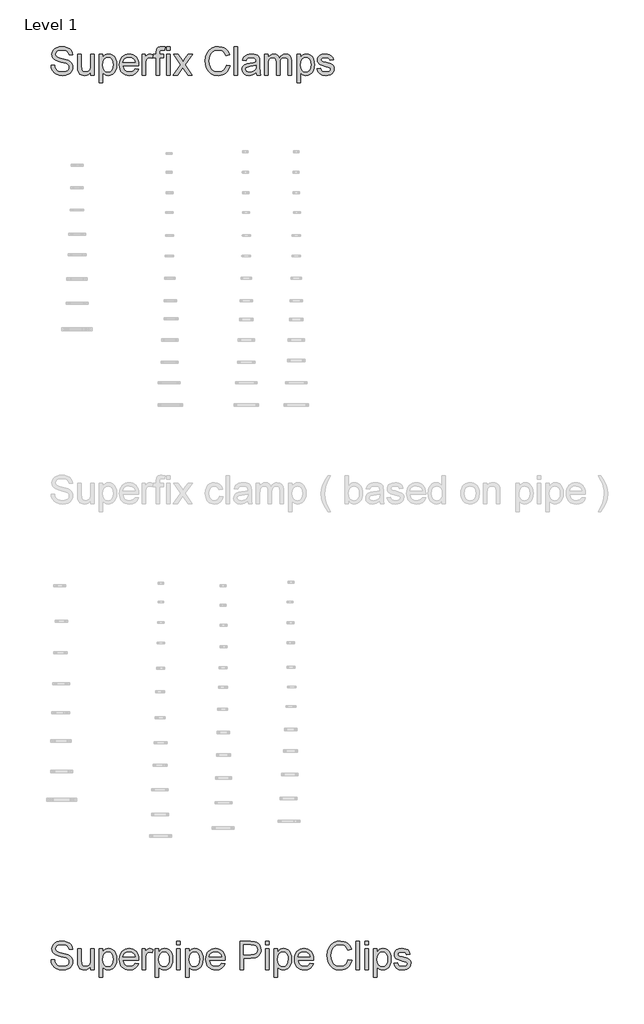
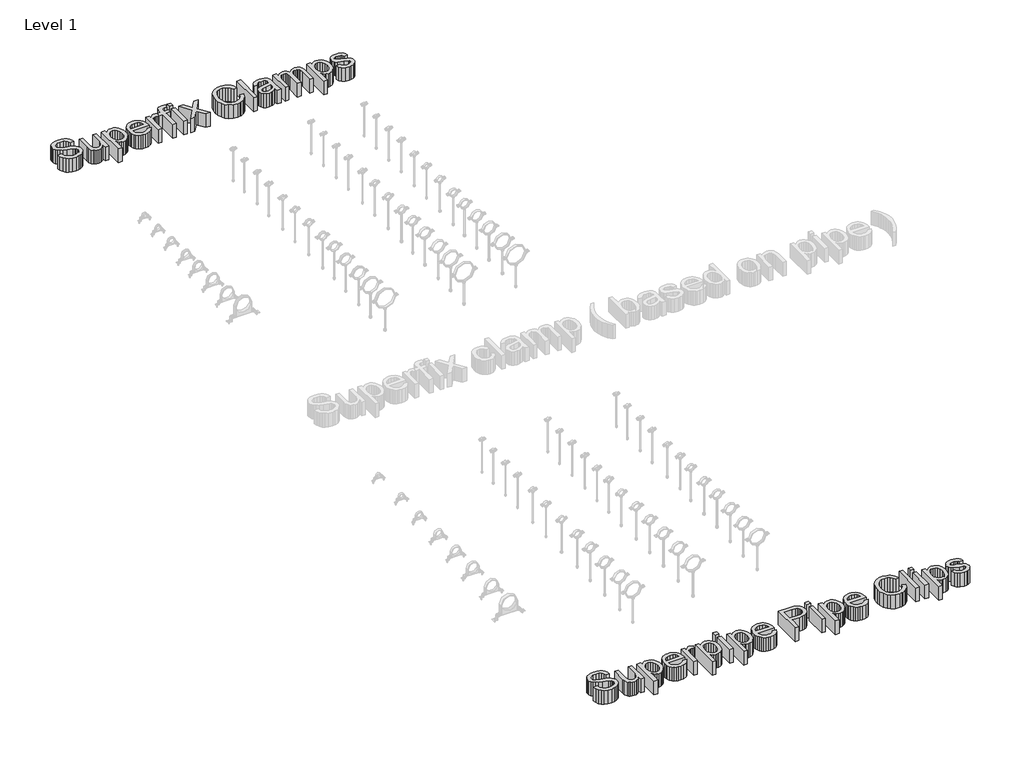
# One storey, part 20 of 32: 2 proxies.
"""IFC4 building model written with IfcOpenShell, lengths in millimetres."""

from ifc_helpers import new_model, si_unit, origin, origin_with_axes, place, context, project, spatial, polyline, outline, extrude, element, save

model = new_model("IFC4")

# Units and contexts
model_context = context("Model", 3, world=origin())
ifc_project = project(units=[si_unit("LENGTHUNIT", "METRE", prefix="MILLI")], contexts=[model_context])

# Site, building, storey
site = spatial("IfcSite", under=ifc_project)
building = spatial("IfcBuilding", under=site)
storey = spatial("IfcBuildingStorey", under=building, Name="Level 1", Elevation=0.0)

# Proxies
placement = place(None, origin())
element("IfcBuildingElementProxy", 1, Name="300mm Arial 2", ObjectType="300mm Arial 2", at=placement, inside=storey, context=model_context, shape_type="SweptSolid", body=[
    extrude(outline(polyline([(-49767.313903, 29546.1412722), (-49729.6427866, 29546.1412722), (-49725.3201732, 29525.2363779), (-49717.5026808, 29508.4333677), (-49705.3073927, 29495.0976454), (-49687.851392, 29484.5946144), (-49666.5142363, 29477.7796005), (-49642.675483, 29475.5079292), (-49621.6878152, 29477.2277775), (-49603.3121095, 29482.3873225), (-49588.4220857, 29490.5543028), (-49577.8914636, 29501.296457), (-49571.6282727, 29513.6297009), (-49569.5405423, 29526.5699501), (-49571.1040408, 29539.1791055), (-49575.7945363, 29550.0776096), (-49585.3226799, 29559.375827), (-49601.3991231, 29567.1841224), (-49656.2503286, 29581.5683084), (-49692.2567789, 29591.087255), (-49715.2953888, 29600.1463491), (-49734.0481735, 29612.8198839), (-49747.3379106, 29628.1789572), (-49755.2565706, 29645.8924752), (-49757.8961239, 29665.6293443), (-49754.6311712, 29687.6930669), (-49744.836313, 29708.2668675), (-49728.7690669, 29725.7044741), (-49706.6869501, 29738.3596147), (-49680.1810524, 29746.0575455), (-49650.8424633, 29748.6235224), (-49619.0574589, 29745.9379838), (-49591.2455801, 29737.8813681), (-49568.4001082, 29724.6192222), (-49551.5143246, 29706.3170929), (-49540.8273526, 29684.1154145), (-49536.5783156, 29659.1546211), (-49574.2494319, 29659.1546211), (-49581.1656134, 29681.6322111), (-49595.5865876, 29697.855807), (-49618.1193598, 29707.6782563), (-49649.3709353, 29710.9524061), (-49681.3582748, 29707.7150445), (-49703.3024358, 29698.0029598), (-49715.9943646, 29683.7107443), (-49720.2250076, 29666.7329902), (-49717.2267693, 29652.2568337), (-49708.2320545, 29640.6133686), (-49686.9684752, 29630.2023081), (-49646.7221849, 29619.5705185), (-49605.1883077, 29609.4721577), (-49580.0619674, 29600.6613839), (-49558.5868559, 29586.9945678), (-49543.6048617, 29570.1271783), (-49534.803285, 29550.2431565), (-49531.869426, 29527.5264433), (-49535.2447433, 29504.3038923), (-49545.3706953, 29482.4608989), (-49561.8334145, 29463.6621289), (-49584.219034, 29449.5722485), (-49611.138799, 29440.7706718), (-49641.203955, 29437.8368128), (-49678.1117162, 29441.000598), (-49708.4895719, 29450.4919535), (-49732.6870102, 29466.3476675), (-49751.0535188, 29488.6045282), (-49762.8441367, 29515.7174312), (-49767.313903, 29546.1412722)])), origin_with_axes(), (0.0, 0.0, 1.0), 150.0),
    extrude(outline(polyline([(-49338.804955, 29442.5457024), (-49338.804955, 29480.5847007), (-49352.4349829, 29461.8824998), (-49368.309091, 29448.5237848), (-49386.4272792, 29440.5085558), (-49406.7895477, 29437.8368128), (-49425.1376622, 29439.713011), (-49442.2165838, 29445.3416056), (-49456.5455875, 29453.8028914), (-49466.6439483, 29464.1771637), (-49477.8643491, 29491.9154661), (-49480.0716411, 29526.9378321), (-49480.0716411, 29663.8635107), (-49442.4005248, 29663.8635107), (-49442.4005248, 29544.6697442), (-49440.1196564, 29506.262864), (-49434.6290177, 29493.4513735), (-49425.2204356, 29483.7116976), (-49412.5193098, 29477.5588713), (-49397.1510394, 29475.5079292), (-49380.8998523, 29477.6048565), (-49365.6971288, 29483.8956386), (-49353.1615498, 29493.8008614), (-49344.9117961, 29506.7411105), (-49340.3316653, 29524.4638257), (-49338.804955, 29548.7164462), (-49338.804955, 29663.8635107), (-49301.1338387, 29663.8635107), (-49301.1338387, 29442.5457024), (-49338.804955, 29442.5457024)])), origin_with_axes(), (0.0, 0.0, 1.0), 150.0),
    extrude(outline(polyline([(-49249.3360537, 29357.7856907), (-49249.3360537, 29663.8635107), (-49211.6649374, 29663.8635107), (-49211.6649374, 29626.9281584), (-49199.3776788, 29645.1475142), (-49185.6188922, 29658.1613398), (-49169.5792372, 29665.9696351), (-49150.4493734, 29668.5724002), (-49124.9735453, 29664.9303685), (-49102.6982905, 29654.0042732), (-49084.5617081, 29636.456302), (-49071.5018973, 29612.9486426), (-49063.6108285, 29585.191946), (-49060.9804722, 29554.8968637), (-49063.9511193, 29522.679598), (-49072.8630607, 29493.8652407), (-49087.4311877, 29469.9161228), (-49107.3703918, 29452.2945753), (-49130.5929428, 29441.4512535), (-49155.0111102, 29437.8368128), (-49172.3291551, 29440.255637), (-49187.789396, 29447.5121093), (-49201.0239507, 29458.4657957), (-49211.6649374, 29471.976262), (-49211.6649374, 29357.7856907), (-49249.3360537, 29357.7856907)]), holes=[polyline([(-49211.6649374, 29551.438773), (-49207.5906443, 29517.6672058), (-49195.3677651, 29494.0491817), (-49177.3323502, 29480.1432423), (-49155.8204506, 29475.5079292), (-49133.959063, 29480.3087892), (-49115.4637957, 29494.7113693), (-49102.8546403, 29519.1939161), (-49098.6515885, 29554.2346761), (-49102.7534728, 29587.8223023), (-49115.0591255, 29611.7714202), (-49133.0669492, 29626.118818), (-49154.2753462, 29630.9012839), (-49175.5665167, 29625.8153153), (-49194.2641191, 29610.5574096), (-49207.3147328, 29585.6058133), (-49211.6649374, 29551.438773)])]), origin_with_axes(), (0.0, 0.0, 1.0), 150.0),
    extrude(outline(polyline([(-48863.64857, 29508.4701559), (-48826.7132177, 29503.7612664), (-48840.0213489, 29475.9309934), (-48861.257337, 29455.1272666), (-48889.9429356, 29442.1594263), (-48925.599898, 29437.8368128), (-48948.9742003, 29439.7015147), (-48969.8009197, 29445.2956203), (-48988.0800563, 29454.6191296), (-49003.8116102, 29467.6720427), (-49016.4621523, 29484.091076), (-49025.4982538, 29503.512946), (-49030.9199147, 29525.9376529), (-49032.727135, 29551.3651966), (-49030.9015206, 29577.6549636), (-49025.4246774, 29600.8269308), (-49016.2966054, 29620.8810981), (-49003.5173046, 29637.8174654), (-48987.8271375, 29651.2727494), (-48969.9664666, 29660.8836665), (-48949.935292, 29666.6502168), (-48927.7336136, 29668.5724002), (-48906.2470058, 29666.6548153), (-48886.8159386, 29660.9020606), (-48869.4404122, 29651.3141361), (-48854.1204263, 29637.8910418), (-48841.6147378, 29620.9914627), (-48832.6821031, 29600.9740836), (-48827.3225222, 29577.8389046), (-48825.5359953, 29551.5859258), (-48825.7567245, 29541.4323827), (-48995.0560187, 29541.4323827), (-48988.5353103, 29513.2342278), (-48973.3877692, 29492.5040773), (-48951.5263816, 29479.7569662), (-48924.864134, 29475.5079292), (-48904.8145653, 29477.4760978), (-48887.9287817, 29483.3806039), (-48874.2067833, 29493.5893292), (-48863.64857, 29508.4701559)]), holes=[polyline([(-48995.0560187, 29579.103499), (-48863.2071116, 29579.103499), (-48868.3022772, 29599.0059149), (-48878.2902734, 29613.2429481), (-48900.2528285, 29626.4867), (-48927.8807664, 29630.9012839), (-48953.2738211, 29627.3788138), (-48974.270686, 29616.8114035), (-48988.8664041, 29600.3394872), (-48995.0560187, 29579.103499)])]), origin_with_axes(), (0.0, 0.0, 1.0), 150.0),
    extrude(outline(polyline([(-48787.864879, 29442.5457024), (-48787.864879, 29663.8635107), (-48754.9026522, 29663.8635107), (-48754.9026522, 29631.1220131), (-48742.7257582, 29650.1047241), (-48731.5053573, 29661.2883367), (-48720.2481683, 29666.7513843), (-48707.9609096, 29668.5724002), (-48689.1989279, 29665.6661325), (-48670.1426405, 29656.9473292), (-48682.7242048, 29623.175762), (-48695.9679566, 29628.9699034), (-48709.2117084, 29630.9012839), (-48720.4597004, 29629.0434798), (-48730.5120759, 29623.4700676), (-48738.633071, 29614.6041115), (-48744.0869216, 29602.8686759), (-48748.6670524, 29581.8258258), (-48750.1937627, 29558.8699893), (-48750.1937627, 29442.5457024), (-48787.864879, 29442.5457024)])), origin_with_axes(), (0.0, 0.0, 1.0), 150.0),
    extrude(outline(polyline([(-48637.1804138, 29442.5457024), (-48637.1804138, 29626.1923944), (-48670.1426405, 29626.1923944), (-48670.1426405, 29663.8635107), (-48637.1804138, 29663.8635107), (-48637.1804138, 29686.1571596), (-48633.2072882, 29717.574282), (-48625.6289191, 29730.1006639), (-48613.9302717, 29740.0150837), (-48597.5595229, 29746.4714127), (-48575.9648498, 29748.6235224), (-48541.6046714, 29744.503244), (-48547.1229014, 29709.1865725), (-48568.8279391, 29710.9524061), (-48583.1477457, 29709.3889076), (-48592.5563278, 29704.6984122), (-48597.771055, 29695.7404856), (-48599.5092975, 29681.3746937), (-48599.5092975, 29663.8635107), (-48557.1292916, 29663.8635107), (-48557.1292916, 29626.1923944), (-48599.5092975, 29626.1923944), (-48599.5092975, 29442.5457024), (-48637.1804138, 29442.5457024)])), origin_with_axes(), (0.0, 0.0, 1.0), 150.0),
    extrude(outline(polyline([(-48524.1670649, 29442.5457024), (-48524.1670649, 29663.8635107), (-48486.4959485, 29663.8635107), (-48486.4959485, 29442.5457024), (-48524.1670649, 29442.5457024)])), origin_with_axes(), (0.0, 0.0, 1.0), 150.0),
    extrude(outline(polyline([(-48524.1670649, 29706.2435165), (-48524.1670649, 29743.9146328), (-48486.4959485, 29743.9146328), (-48486.4959485, 29706.2435165), (-48524.1670649, 29706.2435165)])), origin_with_axes(), (0.0, 0.0, 1.0), 150.0),
    extrude(outline(polyline([(-48453.5337218, 29442.5457024), (-48373.0411412, 29553.7932177), (-48448.8248322, 29663.8635107), (-48403.5017704, 29663.8635107), (-48366.9343001, 29610.8885034), (-48349.8645755, 29585.8725277), (-48335.0757193, 29606.3267666), (-48293.4314775, 29663.8635107), (-48248.1084157, 29663.8635107), (-48327.7180794, 29553.7932177), (-48251.0514716, 29442.5457024), (-48296.3745334, 29442.5457024), (-48342.5069356, 29509.4266491), (-48350.9682215, 29521.6403314), (-48408.21066, 29442.5457024), (-48453.5337218, 29442.5457024)])), origin_with_axes(), (0.0, 0.0, 1.0), 150.0),
    extrude(outline(polyline([(-47883.7580876, 29549.6729394), (-47846.0869713, 29539.9608547), (-47853.5411803, 29516.5336694), (-47863.4693956, 29496.0633356), (-47875.8716174, 29478.5498534), (-47890.7478456, 29463.9932227), (-47907.7623878, 29452.5497934), (-47926.5795519, 29444.3759153), (-47947.1993377, 29439.4715885), (-47969.6217453, 29437.8368128), (-48013.3169293, 29442.7848257), (-48048.0173985, 29457.6288642), (-48074.6152667, 29481.8538936), (-48094.0026479, 29514.944879), (-48105.8392511, 29553.8484), (-48109.7847855, 29595.511036), (-48105.3242163, 29639.4545403), (-48091.9425087, 29677.4015681), (-48070.3386386, 29708.1473059), (-48041.2115816, 29730.48694), (-48006.6674622, 29744.0893768), (-47968.8124049, 29748.6235224), (-47927.5084539, 29742.7558046), (-47909.5397177, 29735.4211573), (-47893.3598077, 29725.1526511), (-47879.2354384, 29712.221599), (-47867.4333241, 29696.8993139), (-47850.7958609, 29659.0810447), (-47888.4669772, 29650.1047241), (-47901.526788, 29677.5763121), (-47919.3690648, 29696.4210673), (-47942.2145367, 29707.3195714), (-47970.2839329, 29710.9524061), (-48002.6391544, 29706.9240982), (-48029.2186285, 29694.8391747), (-48049.3877589, 29675.9668283), (-48062.5119491, 29651.576252), (-48069.7132392, 29624.0034965), (-48072.1136692, 29595.5846124), (-48069.2717808, 29560.7829756), (-48060.7461155, 29530.6902284), (-48046.2147767, 29506.456002), (-48025.3558676, 29489.2299276), (-48000.349089, 29478.9384288), (-47973.3741417, 29475.5079292), (-47941.9294281, 29480.1800305), (-47915.727033, 29494.1963345), (-47895.9441787, 29517.4096884), (-47883.7580876, 29549.6729394)])), origin_with_axes(), (0.0, 0.0, 1.0), 150.0),
    extrude(outline(polyline([(-47798.998076, 29442.5457024), (-47798.998076, 29743.9146328), (-47761.3269597, 29743.9146328), (-47761.3269597, 29442.5457024), (-47798.998076, 29442.5457024)])), origin_with_axes(), (0.0, 0.0, 1.0), 150.0),
    extrude(outline(polyline([(-47563.553599, 29470.7990396), (-47581.5522257, 29455.3663899), (-47600.0842812, 29445.2680292), (-47619.5728299, 29439.6946169), (-47640.440936, 29437.8368128), (-47671.9224378, 29442.3065791), (-47695.1449887, 29455.7158778), (-47709.4647954, 29476.0781462), (-47714.2380643, 29501.4068216), (-47712.4354425, 29517.0234123), (-47707.0275772, 29531.2052632), (-47698.6858529, 29543.3453691), (-47688.0816544, 29552.8367245), (-47661.7045154, 29565.1975596), (-47629.1101706, 29570.8629423), (-47590.5929257, 29576.8226306), (-47563.7743282, 29583.8123885), (-47563.553599, 29592.200098), (-47566.1471671, 29609.0123052), (-47573.9278713, 29620.0119769), (-47591.3286897, 29628.1789572), (-47615.5721132, 29630.9012839), (-47638.0129149, 29629.0894651), (-47653.6846879, 29623.6540086), (-47664.3716598, 29613.6016331), (-47671.8580584, 29597.9390572), (-47709.5291747, 29602.6479467), (-47702.9900723, 29623.2493384), (-47693.2320023, 29639.4361462), (-47679.344457, 29651.8153753), (-47660.4169284, 29660.9940311), (-47637.2679538, 29666.6778079), (-47610.7160708, 29668.5724002), (-47585.2494397, 29666.8985371), (-47565.0619152, 29661.8769479), (-47549.8407977, 29654.32617), (-47539.2733874, 29645.0647407), (-47532.2652354, 29633.6144136), (-47527.7218927, 29619.4969421), (-47525.8824827, 29586.5347153), (-47525.8824827, 29539.6665491), (-47523.9694964, 29474.2203422), (-47516.4647037, 29442.5457024), (-47554.13582, 29442.5457024), (-47563.553599, 29470.7990396)]), holes=[polyline([(-47563.553599, 29546.1412722), (-47624.3277046, 29534.5897776), (-47656.7381084, 29528.4829365), (-47671.4166, 29518.5501226), (-47676.566948, 29504.055572), (-47673.7618478, 29492.8535652), (-47665.3465471, 29483.6749094), (-47651.504987, 29477.5496742), (-47632.4211085, 29475.5079292), (-47612.1875988, 29477.7612064), (-47594.3085338, 29484.521038), (-47579.8139832, 29494.4814431), (-47569.7340166, 29506.3364404), (-47565.2642503, 29518.5501226), (-47563.7743282, 29535.4726944), (-47563.553599, 29546.1412722)])]), origin_with_axes(), (0.0, 0.0, 1.0), 150.0),
    extrude(outline(polyline([(-47474.0846978, 29442.5457024), (-47474.0846978, 29663.8635107), (-47436.4135815, 29663.8635107), (-47436.4135815, 29627.4431932), (-47425.0828161, 29644.1726269), (-47410.5146891, 29657.278423), (-47393.2058412, 29665.7489059), (-47373.6529131, 29668.5724002), (-47352.7020335, 29665.6937236), (-47335.9082204, 29657.0576938), (-47323.3634444, 29643.2345278), (-47315.1596759, 29624.7944428), (-47301.4284804, 29643.9472992), (-47285.7659045, 29657.6279109), (-47268.1719481, 29665.8362779), (-47248.6466112, 29668.5724002), (-47220.3288946, 29664.0198605), (-47199.387212, 29650.3622415), (-47186.4469628, 29627.231661), (-47182.1335464, 29594.2602372), (-47182.1335464, 29442.5457024), (-47219.8046628, 29442.5457024), (-47219.8046628, 29578.0734294), (-47223.2995417, 29609.52734), (-47228.2107663, 29618.200158), (-47235.9546823, 29625.015172), (-47245.9150874, 29629.4297559), (-47257.4757791, 29630.9012839), (-47277.8840327, 29627.1304935), (-47294.521496, 29615.8181221), (-47305.585547, 29596.1916177), (-47309.273564, 29567.4784279), (-47309.273564, 29442.5457024), (-47346.9446803, 29442.5457024), (-47346.9446803, 29582.2672842), (-47349.1243811, 29603.5676517), (-47355.6634836, 29618.7611781), (-47367.168993, 29627.8662575), (-47384.2479146, 29630.9012839), (-47398.7608593, 29628.8779329), (-47412.1333698, 29622.80788), (-47423.1698297, 29612.838278), (-47430.6746224, 29599.1162795), (-47434.9788417, 29580.0783863), (-47436.4135815, 29554.1610997), (-47436.4135815, 29442.5457024), (-47474.0846978, 29442.5457024)])), origin_with_axes(), (0.0, 0.0, 1.0), 150.0),
    extrude(outline(polyline([(-47125.626872, 29357.7856907), (-47125.626872, 29663.8635107), (-47087.9557557, 29663.8635107), (-47087.9557557, 29626.9281584), (-47075.668497, 29645.1475142), (-47061.9097104, 29658.1613398), (-47045.8700554, 29665.9696351), (-47026.7401917, 29668.5724002), (-47001.2643635, 29664.9303685), (-46978.9891087, 29654.0042732), (-46960.8525263, 29636.456302), (-46947.7927155, 29612.9486426), (-46939.9016467, 29585.191946), (-46937.2712905, 29554.8968637), (-46940.2419376, 29522.679598), (-46949.1538789, 29493.8652407), (-46963.7220059, 29469.9161228), (-46983.66121, 29452.2945753), (-47006.883761, 29441.4512535), (-47031.3019284, 29437.8368128), (-47048.6199733, 29440.255637), (-47064.0802142, 29447.5121093), (-47077.314769, 29458.4657957), (-47087.9557557, 29471.976262), (-47087.9557557, 29357.7856907), (-47125.626872, 29357.7856907)]), holes=[polyline([(-47087.9557557, 29551.438773), (-47083.8814626, 29517.6672058), (-47071.6585833, 29494.0491817), (-47053.6231685, 29480.1432423), (-47032.1112688, 29475.5079292), (-47010.2498813, 29480.3087892), (-46991.7546139, 29494.7113693), (-46979.1454586, 29519.1939161), (-46974.9424068, 29554.2346761), (-46979.044291, 29587.8223023), (-46991.3499437, 29611.7714202), (-47009.3577674, 29626.118818), (-47030.5661644, 29630.9012839), (-47051.8573349, 29625.8153153), (-47070.5549373, 29610.5574096), (-47083.6055511, 29585.6058133), (-47087.9557557, 29551.438773)])]), origin_with_axes(), (0.0, 0.0, 1.0), 150.0),
    extrude(outline(polyline([(-46909.0179532, 29508.4701559), (-46871.3468369, 29513.1790455), (-46865.4055427, 29497.0658141), (-46853.9092303, 29485.2200138), (-46836.7843235, 29477.9359503), (-46813.9572457, 29475.5079292), (-46791.4060794, 29477.7336152), (-46775.5503654, 29484.4106734), (-46766.1693745, 29494.0859699), (-46763.0423775, 29505.3063708), (-46766.1877686, 29514.9080908), (-46775.6239418, 29522.2289425), (-46814.3987041, 29532.9710968), (-46871.1261077, 29551.4019848), (-46885.4827026, 29560.663414), (-46895.884566, 29572.9230815), (-46902.2029393, 29587.399238), (-46904.3090637, 29603.3101343), (-46902.6168065, 29617.9058524), (-46897.540035, 29631.3795305), (-46889.5386016, 29643.1977396), (-46879.0723588, 29652.8270508), (-46855.1232409, 29663.9738753), (-46822.7128372, 29668.5724002), (-46798.1935022, 29666.7237932), (-46776.8747406, 29661.1779721), (-46759.7314396, 29652.4775629), (-46747.7384865, 29641.1651916), (-46739.7922354, 29626.4039265), (-46734.7890403, 29607.3568362), (-46772.4601566, 29602.6479467), (-46777.2150314, 29614.502944), (-46786.6236134, 29623.4332794), (-46800.7778732, 29629.0342828), (-46819.7697812, 29630.9012839), (-46841.4012425, 29629.1170562), (-46855.8222167, 29623.7643732), (-46863.9340147, 29616.0388513), (-46866.6379474, 29607.136107), (-46862.149787, 29596.1732236), (-46848.0966948, 29587.8590905), (-46815.6495029, 29579.839263), (-46760.356839, 29562.1073508), (-46745.7519238, 29553.6276708), (-46734.6786757, 29542.0209939), (-46727.6981149, 29527.2505318), (-46725.3712612, 29509.2794963), (-46728.102785, 29490.7014556), (-46736.2973565, 29473.2270608), (-46749.6422759, 29458.2266724), (-46767.8248435, 29447.0706509), (-46789.7873986, 29440.1452724), (-46814.4722805, 29437.8368128), (-46852.4560965, 29442.288185), (-46880.1760048, 29455.6423014), (-46898.6804692, 29477.7520093), (-46909.0179532, 29508.4701559)])), origin_with_axes(), (0.0, 0.0, 1.0), 150.0),
])
element("IfcBuildingElementProxy", 2, Name="300mm Arial 2", ObjectType="300mm Arial 2", at=placement, inside=storey, context=model_context, shape_type="SweptSolid", body=[
    extrude(outline(polyline([(-49767.313903, 19946.1412722), (-49729.6427866, 19946.1412722), (-49725.3201732, 19925.2363779), (-49717.5026808, 19908.4333677), (-49705.3073927, 19895.0976454), (-49687.851392, 19884.5946144), (-49666.5142363, 19877.7796005), (-49642.675483, 19875.5079292), (-49621.6878152, 19877.2277775), (-49603.3121095, 19882.3873225), (-49588.4220857, 19890.5543028), (-49577.8914636, 19901.296457), (-49571.6282727, 19913.6297009), (-49569.5405423, 19926.5699501), (-49571.1040408, 19939.1791055), (-49575.7945363, 19950.0776096), (-49585.3226799, 19959.375827), (-49601.3991231, 19967.1841224), (-49656.2503286, 19981.5683084), (-49692.2567789, 19991.087255), (-49715.2953888, 20000.1463491), (-49734.0481735, 20012.8198839), (-49747.3379106, 20028.1789572), (-49755.2565706, 20045.8924752), (-49757.8961239, 20065.6293443), (-49754.6311712, 20087.6930669), (-49744.836313, 20108.2668675), (-49728.7690669, 20125.7044741), (-49706.6869501, 20138.3596147), (-49680.1810524, 20146.0575455), (-49650.8424633, 20148.6235224), (-49619.0574589, 20145.9379838), (-49591.2455801, 20137.8813681), (-49568.4001082, 20124.6192222), (-49551.5143246, 20106.3170929), (-49540.8273526, 20084.1154145), (-49536.5783156, 20059.1546211), (-49574.2494319, 20059.1546211), (-49581.1656134, 20081.6322111), (-49595.5865876, 20097.855807), (-49618.1193598, 20107.6782563), (-49649.3709353, 20110.9524061), (-49681.3582748, 20107.7150445), (-49703.3024358, 20098.0029598), (-49715.9943646, 20083.7107443), (-49720.2250076, 20066.7329902), (-49717.2267693, 20052.2568337), (-49708.2320545, 20040.6133686), (-49686.9684752, 20030.2023081), (-49646.7221849, 20019.5705185), (-49605.1883077, 20009.4721577), (-49580.0619674, 20000.6613839), (-49558.5868559, 19986.9945678), (-49543.6048617, 19970.1271783), (-49534.803285, 19950.2431565), (-49531.869426, 19927.5264433), (-49535.2447433, 19904.3038923), (-49545.3706953, 19882.4608989), (-49561.8334145, 19863.6621289), (-49584.219034, 19849.5722485), (-49611.138799, 19840.7706718), (-49641.203955, 19837.8368128), (-49678.1117162, 19841.000598), (-49708.4895719, 19850.4919535), (-49732.6870102, 19866.3476675), (-49751.0535188, 19888.6045282), (-49762.8441367, 19915.7174312), (-49767.313903, 19946.1412722)])), origin_with_axes(), (0.0, 0.0, 1.0), 150.0),
    extrude(outline(polyline([(-49338.804955, 19842.5457024), (-49338.804955, 19880.5847007), (-49352.4349829, 19861.8824998), (-49368.309091, 19848.5237848), (-49386.4272792, 19840.5085558), (-49406.7895477, 19837.8368128), (-49425.1376622, 19839.713011), (-49442.2165838, 19845.3416056), (-49456.5455875, 19853.8028914), (-49466.6439483, 19864.1771637), (-49477.8643491, 19891.9154661), (-49480.0716411, 19926.9378321), (-49480.0716411, 20063.8635107), (-49442.4005248, 20063.8635107), (-49442.4005248, 19944.6697442), (-49440.1196564, 19906.262864), (-49434.6290177, 19893.4513735), (-49425.2204356, 19883.7116976), (-49412.5193098, 19877.5588713), (-49397.1510394, 19875.5079292), (-49380.8998523, 19877.6048565), (-49365.6971288, 19883.8956386), (-49353.1615498, 19893.8008614), (-49344.9117961, 19906.7411105), (-49340.3316653, 19924.4638257), (-49338.804955, 19948.7164462), (-49338.804955, 20063.8635107), (-49301.1338387, 20063.8635107), (-49301.1338387, 19842.5457024), (-49338.804955, 19842.5457024)])), origin_with_axes(), (0.0, 0.0, 1.0), 150.0),
    extrude(outline(polyline([(-49249.3360537, 19757.7856907), (-49249.3360537, 20063.8635107), (-49211.6649374, 20063.8635107), (-49211.6649374, 20026.9281584), (-49199.3776788, 20045.1475142), (-49185.6188922, 20058.1613398), (-49169.5792372, 20065.9696351), (-49150.4493734, 20068.5724002), (-49124.9735453, 20064.9303685), (-49102.6982905, 20054.0042732), (-49084.5617081, 20036.456302), (-49071.5018973, 20012.9486426), (-49063.6108285, 19985.191946), (-49060.9804722, 19954.8968637), (-49063.9511193, 19922.679598), (-49072.8630607, 19893.8652407), (-49087.4311877, 19869.9161228), (-49107.3703918, 19852.2945753), (-49130.5929428, 19841.4512535), (-49155.0111102, 19837.8368128), (-49172.3291551, 19840.255637), (-49187.789396, 19847.5121093), (-49201.0239507, 19858.4657957), (-49211.6649374, 19871.976262), (-49211.6649374, 19757.7856907), (-49249.3360537, 19757.7856907)]), holes=[polyline([(-49211.6649374, 19951.438773), (-49207.5906443, 19917.6672058), (-49195.3677651, 19894.0491817), (-49177.3323502, 19880.1432423), (-49155.8204506, 19875.5079292), (-49133.959063, 19880.3087892), (-49115.4637957, 19894.7113693), (-49102.8546403, 19919.1939161), (-49098.6515885, 19954.2346761), (-49102.7534728, 19987.8223023), (-49115.0591255, 20011.7714202), (-49133.0669492, 20026.118818), (-49154.2753462, 20030.9012839), (-49175.5665167, 20025.8153153), (-49194.2641191, 20010.5574096), (-49207.3147328, 19985.6058133), (-49211.6649374, 19951.438773)])]), origin_with_axes(), (0.0, 0.0, 1.0), 150.0),
    extrude(outline(polyline([(-48863.64857, 19908.4701559), (-48826.7132177, 19903.7612664), (-48840.0213489, 19875.9309934), (-48861.257337, 19855.1272666), (-48889.9429356, 19842.1594263), (-48925.599898, 19837.8368128), (-48948.9742003, 19839.7015147), (-48969.8009197, 19845.2956203), (-48988.0800563, 19854.6191296), (-49003.8116102, 19867.6720427), (-49016.4621523, 19884.091076), (-49025.4982538, 19903.512946), (-49030.9199147, 19925.9376529), (-49032.727135, 19951.3651966), (-49030.9015206, 19977.6549636), (-49025.4246774, 20000.8269308), (-49016.2966054, 20020.8810981), (-49003.5173046, 20037.8174654), (-48987.8271375, 20051.2727494), (-48969.9664666, 20060.8836665), (-48949.935292, 20066.6502168), (-48927.7336136, 20068.5724002), (-48906.2470058, 20066.6548153), (-48886.8159386, 20060.9020606), (-48869.4404122, 20051.3141361), (-48854.1204263, 20037.8910418), (-48841.6147378, 20020.9914627), (-48832.6821031, 20000.9740836), (-48827.3225222, 19977.8389046), (-48825.5359953, 19951.5859258), (-48825.7567245, 19941.4323827), (-48995.0560187, 19941.4323827), (-48988.5353103, 19913.2342278), (-48973.3877692, 19892.5040773), (-48951.5263816, 19879.7569662), (-48924.864134, 19875.5079292), (-48904.8145653, 19877.4760978), (-48887.9287817, 19883.3806039), (-48874.2067833, 19893.5893292), (-48863.64857, 19908.4701559)]), holes=[polyline([(-48995.0560187, 19979.103499), (-48863.2071116, 19979.103499), (-48868.3022772, 19999.0059149), (-48878.2902734, 20013.2429481), (-48900.2528285, 20026.4867), (-48927.8807664, 20030.9012839), (-48953.2738211, 20027.3788138), (-48974.270686, 20016.8114035), (-48988.8664041, 20000.3394872), (-48995.0560187, 19979.103499)])]), origin_with_axes(), (0.0, 0.0, 1.0), 150.0),
    extrude(outline(polyline([(-48787.864879, 19842.5457024), (-48787.864879, 20063.8635107), (-48754.9026522, 20063.8635107), (-48754.9026522, 20031.1220131), (-48742.7257582, 20050.1047241), (-48731.5053573, 20061.2883367), (-48720.2481683, 20066.7513843), (-48707.9609096, 20068.5724002), (-48689.1989279, 20065.6661325), (-48670.1426405, 20056.9473292), (-48682.7242048, 20023.175762), (-48695.9679566, 20028.9699034), (-48709.2117084, 20030.9012839), (-48720.4597004, 20029.0434798), (-48730.5120759, 20023.4700676), (-48738.633071, 20014.6041115), (-48744.0869216, 20002.8686759), (-48748.6670524, 19981.8258258), (-48750.1937627, 19958.8699893), (-48750.1937627, 19842.5457024), (-48787.864879, 19842.5457024)])), origin_with_axes(), (0.0, 0.0, 1.0), 150.0),
    extrude(outline(polyline([(-48646.5981928, 19757.7856907), (-48646.5981928, 20063.8635107), (-48608.9270765, 20063.8635107), (-48608.9270765, 20026.9281584), (-48596.6398179, 20045.1475142), (-48582.8810313, 20058.1613398), (-48566.8413763, 20065.9696351), (-48547.7115125, 20068.5724002), (-48522.2356844, 20064.9303685), (-48499.9604296, 20054.0042732), (-48481.8238472, 20036.456302), (-48468.7640364, 20012.9486426), (-48460.8729676, 19985.191946), (-48458.2426113, 19954.8968637), (-48461.2132584, 19922.679598), (-48470.1251998, 19893.8652407), (-48484.6933268, 19869.9161228), (-48504.6325309, 19852.2945753), (-48527.8550819, 19841.4512535), (-48552.2732493, 19837.8368128), (-48569.5912942, 19840.255637), (-48585.0515351, 19847.5121093), (-48598.2860898, 19858.4657957), (-48608.9270765, 19871.976262), (-48608.9270765, 19757.7856907), (-48646.5981928, 19757.7856907)]), holes=[polyline([(-48608.9270765, 19951.438773), (-48604.8527834, 19917.6672058), (-48592.6299042, 19894.0491817), (-48574.5944893, 19880.1432423), (-48553.0825897, 19875.5079292), (-48531.2212021, 19880.3087892), (-48512.7259348, 19894.7113693), (-48500.1167794, 19919.1939161), (-48495.9137276, 19954.2346761), (-48500.0156119, 19987.8223023), (-48512.3212646, 20011.7714202), (-48530.3290883, 20026.118818), (-48551.5374853, 20030.9012839), (-48572.8286558, 20025.8153153), (-48591.5262582, 20010.5574096), (-48604.5768719, 19985.6058133), (-48608.9270765, 19951.438773)])]), origin_with_axes(), (0.0, 0.0, 1.0), 150.0),
    extrude(outline(polyline([(-48415.8626055, 19842.5457024), (-48415.8626055, 20063.8635107), (-48378.1914892, 20063.8635107), (-48378.1914892, 19842.5457024), (-48415.8626055, 19842.5457024)])), origin_with_axes(), (0.0, 0.0, 1.0), 150.0),
    extrude(outline(polyline([(-48415.8626055, 20106.2435165), (-48415.8626055, 20143.9146328), (-48378.1914892, 20143.9146328), (-48378.1914892, 20106.2435165), (-48415.8626055, 20106.2435165)])), origin_with_axes(), (0.0, 0.0, 1.0), 150.0),
    extrude(outline(polyline([(-48321.6848147, 19757.7856907), (-48321.6848147, 20063.8635107), (-48284.0136984, 20063.8635107), (-48284.0136984, 20026.9281584), (-48271.7264398, 20045.1475142), (-48257.9676531, 20058.1613398), (-48241.9279982, 20065.9696351), (-48222.7981344, 20068.5724002), (-48197.3223062, 20064.9303685), (-48175.0470514, 20054.0042732), (-48156.9104691, 20036.456302), (-48143.8506582, 20012.9486426), (-48135.9595894, 19985.191946), (-48133.3292332, 19954.8968637), (-48136.2998803, 19922.679598), (-48145.2118216, 19893.8652407), (-48159.7799486, 19869.9161228), (-48179.7191528, 19852.2945753), (-48202.9417037, 19841.4512535), (-48227.3598711, 19837.8368128), (-48244.6779161, 19840.255637), (-48260.1381569, 19847.5121093), (-48273.3727117, 19858.4657957), (-48284.0136984, 19871.976262), (-48284.0136984, 19757.7856907), (-48321.6848147, 19757.7856907)]), holes=[polyline([(-48284.0136984, 19951.438773), (-48279.9394053, 19917.6672058), (-48267.716526, 19894.0491817), (-48249.6811112, 19880.1432423), (-48228.1692115, 19875.5079292), (-48206.307824, 19880.3087892), (-48187.8125567, 19894.7113693), (-48175.2034013, 19919.1939161), (-48171.0003495, 19954.2346761), (-48175.1022337, 19987.8223023), (-48187.4078865, 20011.7714202), (-48205.4157101, 20026.118818), (-48226.6241072, 20030.9012839), (-48247.9152776, 20025.8153153), (-48266.61288, 20010.5574096), (-48279.6634938, 19985.6058133), (-48284.0136984, 19951.438773)])]), origin_with_axes(), (0.0, 0.0, 1.0), 150.0),
    extrude(outline(polyline([(-47935.997331, 19908.4701559), (-47899.0619786, 19903.7612664), (-47912.3701098, 19875.9309934), (-47933.606098, 19855.1272666), (-47962.2916966, 19842.1594263), (-47997.948659, 19837.8368128), (-48021.3229612, 19839.7015147), (-48042.1496807, 19845.2956203), (-48060.4288173, 19854.6191296), (-48076.1603711, 19867.6720427), (-48088.8109132, 19884.091076), (-48097.8470147, 19903.512946), (-48103.2686756, 19925.9376529), (-48105.0758959, 19951.3651966), (-48103.2502815, 19977.6549636), (-48097.7734383, 20000.8269308), (-48088.6453663, 20020.8810981), (-48075.8660655, 20037.8174654), (-48060.1758984, 20051.2727494), (-48042.3152276, 20060.8836665), (-48022.2840529, 20066.6502168), (-48000.0823745, 20068.5724002), (-47978.5957667, 20066.6548153), (-47959.1646996, 20060.9020606), (-47941.7891731, 20051.3141361), (-47926.4691873, 20037.8910418), (-47913.9634987, 20020.9914627), (-47905.030864, 20000.9740836), (-47899.6712832, 19977.8389046), (-47897.8847563, 19951.5859258), (-47898.1054855, 19941.4323827), (-48067.4047796, 19941.4323827), (-48060.8840713, 19913.2342278), (-48045.7365301, 19892.5040773), (-48023.8751426, 19879.7569662), (-47997.212895, 19875.5079292), (-47977.1633262, 19877.4760978), (-47960.2775426, 19883.3806039), (-47946.5555442, 19893.5893292), (-47935.997331, 19908.4701559)]), holes=[polyline([(-48067.4047796, 19979.103499), (-47935.5558726, 19979.103499), (-47940.6510382, 19999.0059149), (-47950.6390344, 20013.2429481), (-47972.6015895, 20026.4867), (-48000.2295273, 20030.9012839), (-48025.622582, 20027.3788138), (-48046.6194469, 20016.8114035), (-48061.2151651, 20000.3394872), (-48067.4047796, 19979.103499)])]), origin_with_axes(), (0.0, 0.0, 1.0), 150.0),
    extrude(outline(polyline([(-47737.782512, 19842.5457024), (-47737.782512, 20143.9146328), (-47626.0935382, 20143.9146328), (-47581.064782, 20141.0451533), (-47560.9876221, 20135.6832732), (-47544.4605235, 20126.9552729), (-47531.1523923, 20114.4656791), (-47520.7321348, 20097.8190188), (-47513.9998943, 20078.1833173), (-47511.7558141, 20056.7266), (-47513.2710281, 20038.2267341), (-47517.81667, 20021.2075933), (-47525.3927398, 20005.6691776), (-47535.9992376, 19991.6114868), (-47550.5604668, 19979.9588246), (-47570.000731, 19971.6354945), (-47594.3200302, 19966.6414964), (-47623.5183643, 19964.9768304), (-47700.1113957, 19964.9768304), (-47700.1113957, 19842.5457024), (-47737.782512, 19842.5457024)]), holes=[polyline([(-47700.1113957, 20002.6479467), (-47621.3110723, 20002.6479467), (-47587.9073871, 20006.1060374), (-47565.8344674, 20016.4803097), (-47553.5288147, 20033.12697), (-47549.4269304, 20055.4022248), (-47551.8457545, 20072.3247966), (-47559.1022269, 20086.598618), (-47570.2950366, 20097.3407722), (-47584.5228728, 20103.6683426), (-47622.1939891, 20106.2435165), (-47700.1113957, 20106.2435165), (-47700.1113957, 20002.6479467)])]), origin_with_axes(), (0.0, 0.0, 1.0), 150.0),
    extrude(outline(polyline([(-47464.6669187, 19842.5457024), (-47464.6669187, 20063.8635107), (-47426.9958024, 20063.8635107), (-47426.9958024, 19842.5457024), (-47464.6669187, 19842.5457024)])), origin_with_axes(), (0.0, 0.0, 1.0), 150.0),
    extrude(outline(polyline([(-47464.6669187, 20106.2435165), (-47464.6669187, 20143.9146328), (-47426.9958024, 20143.9146328), (-47426.9958024, 20106.2435165), (-47464.6669187, 20106.2435165)])), origin_with_axes(), (0.0, 0.0, 1.0), 150.0),
    extrude(outline(polyline([(-47370.489128, 19757.7856907), (-47370.489128, 20063.8635107), (-47332.8180117, 20063.8635107), (-47332.8180117, 20026.9281584), (-47320.530753, 20045.1475142), (-47306.7719664, 20058.1613398), (-47290.7323114, 20065.9696351), (-47271.6024477, 20068.5724002), (-47246.1266195, 20064.9303685), (-47223.8513647, 20054.0042732), (-47205.7147823, 20036.456302), (-47192.6549715, 20012.9486426), (-47184.7639027, 19985.191946), (-47182.1335464, 19954.8968637), (-47185.1041936, 19922.679598), (-47194.0161349, 19893.8652407), (-47208.5842619, 19869.9161228), (-47228.523466, 19852.2945753), (-47251.746017, 19841.4512535), (-47276.1641844, 19837.8368128), (-47293.4822293, 19840.255637), (-47308.9424702, 19847.5121093), (-47322.177025, 19858.4657957), (-47332.8180117, 19871.976262), (-47332.8180117, 19757.7856907), (-47370.489128, 19757.7856907)]), holes=[polyline([(-47332.8180117, 19951.438773), (-47328.7437186, 19917.6672058), (-47316.5208393, 19894.0491817), (-47298.4854245, 19880.1432423), (-47276.9735248, 19875.5079292), (-47255.1121372, 19880.3087892), (-47236.6168699, 19894.7113693), (-47224.0077145, 19919.1939161), (-47219.8046628, 19954.2346761), (-47223.906547, 19987.8223023), (-47236.2121997, 20011.7714202), (-47254.2200234, 20026.118818), (-47275.4284204, 20030.9012839), (-47296.7195909, 20025.8153153), (-47315.4171933, 20010.5574096), (-47328.4678071, 19985.6058133), (-47332.8180117, 19951.438773)])]), origin_with_axes(), (0.0, 0.0, 1.0), 150.0),
    extrude(outline(polyline([(-46984.8016442, 19908.4701559), (-46947.8662919, 19903.7612664), (-46961.1744231, 19875.9309934), (-46982.4104113, 19855.1272666), (-47011.0960098, 19842.1594263), (-47046.7529722, 19837.8368128), (-47070.1272745, 19839.7015147), (-47090.9539939, 19845.2956203), (-47109.2331306, 19854.6191296), (-47124.9646844, 19867.6720427), (-47137.6152265, 19884.091076), (-47146.651328, 19903.512946), (-47152.0729889, 19925.9376529), (-47153.8802092, 19951.3651966), (-47152.0545948, 19977.6549636), (-47146.5777516, 20000.8269308), (-47137.4496796, 20020.8810981), (-47124.6703788, 20037.8174654), (-47108.9802117, 20051.2727494), (-47091.1195408, 20060.8836665), (-47071.0883662, 20066.6502168), (-47048.8866878, 20068.5724002), (-47027.40008, 20066.6548153), (-47007.9690129, 20060.9020606), (-46990.5934864, 20051.3141361), (-46975.2735006, 20037.8910418), (-46962.767812, 20020.9914627), (-46953.8351773, 20000.9740836), (-46948.4755965, 19977.8389046), (-46946.6890695, 19951.5859258), (-46946.9097987, 19941.4323827), (-47116.2090929, 19941.4323827), (-47109.6883845, 19913.2342278), (-47094.5408434, 19892.5040773), (-47072.6794558, 19879.7569662), (-47046.0172082, 19875.5079292), (-47025.9676395, 19877.4760978), (-47009.0818559, 19883.3806039), (-46995.3598575, 19893.5893292), (-46984.8016442, 19908.4701559)]), holes=[polyline([(-47116.2090929, 19979.103499), (-46984.3601858, 19979.103499), (-46989.4553515, 19999.0059149), (-46999.4433476, 20013.2429481), (-47021.4059028, 20026.4867), (-47049.0338406, 20030.9012839), (-47074.4268953, 20027.3788138), (-47095.4237602, 20016.8114035), (-47110.0194783, 20000.3394872), (-47116.2090929, 19979.103499)])]), origin_with_axes(), (0.0, 0.0, 1.0), 150.0),
    extrude(outline(polyline([(-46574.686796, 19949.6729394), (-46537.0156797, 19939.9608547), (-46544.4698886, 19916.5336694), (-46554.398104, 19896.0633356), (-46566.8003257, 19878.5498534), (-46581.6765539, 19863.9932227), (-46598.6910962, 19852.5497934), (-46617.5082602, 19844.3759153), (-46638.1280461, 19839.4715885), (-46660.5504537, 19837.8368128), (-46704.2456377, 19842.7848257), (-46738.9461069, 19857.6288642), (-46765.5439751, 19881.8538936), (-46784.9313563, 19914.944879), (-46796.7679594, 19953.8484), (-46800.7134938, 19995.511036), (-46796.2529247, 20039.4545403), (-46782.8712171, 20077.4015681), (-46761.2673469, 20108.1473059), (-46732.1402899, 20130.48694), (-46697.5961706, 20144.0893768), (-46659.7411133, 20148.6235224), (-46618.4371623, 20142.7558046), (-46600.4684261, 20135.4211573), (-46584.2885161, 20125.1526511), (-46570.1641467, 20112.221599), (-46558.3620325, 20096.8993139), (-46541.7245692, 20059.0810447), (-46579.3956855, 20050.1047241), (-46592.4554964, 20077.5763121), (-46610.2977731, 20096.4210673), (-46633.143245, 20107.3195714), (-46661.2126413, 20110.9524061), (-46693.5678628, 20106.9240982), (-46720.1473369, 20094.8391747), (-46740.3164673, 20075.9668283), (-46753.4406575, 20051.576252), (-46760.6419475, 20024.0034965), (-46763.0423775, 19995.5846124), (-46760.2004891, 19960.7829756), (-46751.6748239, 19930.6902284), (-46737.1434851, 19906.456002), (-46716.284576, 19889.2299276), (-46691.2777973, 19878.9384288), (-46664.30285, 19875.5079292), (-46632.8581365, 19880.1800305), (-46606.6557414, 19894.1963345), (-46586.8728871, 19917.4096884), (-46574.686796, 19949.6729394)])), origin_with_axes(), (0.0, 0.0, 1.0), 150.0),
    extrude(outline(polyline([(-46489.9267843, 19842.5457024), (-46489.9267843, 20143.9146328), (-46452.255668, 20143.9146328), (-46452.255668, 19842.5457024), (-46489.9267843, 19842.5457024)])), origin_with_axes(), (0.0, 0.0, 1.0), 150.0),
    extrude(outline(polyline([(-46395.7489936, 20106.2435165), (-46395.7489936, 20143.9146328), (-46358.0778773, 20143.9146328), (-46358.0778773, 20106.2435165), (-46395.7489936, 20106.2435165)])), origin_with_axes(), (0.0, 0.0, 1.0), 150.0),
    extrude(outline(polyline([(-46395.7489936, 19842.5457024), (-46395.7489936, 20063.8635107), (-46358.0778773, 20063.8635107), (-46358.0778773, 19842.5457024), (-46395.7489936, 19842.5457024)])), origin_with_axes(), (0.0, 0.0, 1.0), 150.0),
    extrude(outline(polyline([(-46301.5712028, 19757.7856907), (-46301.5712028, 20063.8635107), (-46263.9000865, 20063.8635107), (-46263.9000865, 20026.9281584), (-46251.6128278, 20045.1475142), (-46237.8540412, 20058.1613398), (-46221.8143862, 20065.9696351), (-46202.6845225, 20068.5724002), (-46177.2086943, 20064.9303685), (-46154.9334395, 20054.0042732), (-46136.7968572, 20036.456302), (-46123.7370463, 20012.9486426), (-46115.8459775, 19985.191946), (-46113.2156213, 19954.8968637), (-46116.1862684, 19922.679598), (-46125.0982097, 19893.8652407), (-46139.6663367, 19869.9161228), (-46159.6055409, 19852.2945753), (-46182.8280918, 19841.4512535), (-46207.2462592, 19837.8368128), (-46224.5643042, 19840.255637), (-46240.024545, 19847.5121093), (-46253.2590998, 19858.4657957), (-46263.9000865, 19871.976262), (-46263.9000865, 19757.7856907), (-46301.5712028, 19757.7856907)]), holes=[polyline([(-46263.9000865, 19951.438773), (-46259.8257934, 19917.6672058), (-46247.6029141, 19894.0491817), (-46229.5674993, 19880.1432423), (-46208.0555996, 19875.5079292), (-46186.1942121, 19880.3087892), (-46167.6989447, 19894.7113693), (-46155.0897894, 19919.1939161), (-46150.8867376, 19954.2346761), (-46154.9886218, 19987.8223023), (-46167.2942746, 20011.7714202), (-46185.3020982, 20026.118818), (-46206.5104952, 20030.9012839), (-46227.8016657, 20025.8153153), (-46246.4992681, 20010.5574096), (-46259.5498819, 19985.6058133), (-46263.9000865, 19951.438773)])]), origin_with_axes(), (0.0, 0.0, 1.0), 150.0),
    extrude(outline(polyline([(-46084.962284, 19908.4701559), (-46047.2911677, 19913.1790455), (-46041.3498735, 19897.0658141), (-46029.8535612, 19885.2200138), (-46012.7286543, 19877.9359503), (-45989.9015765, 19875.5079292), (-45967.3504102, 19877.7336152), (-45951.4946962, 19884.4106734), (-45942.1137053, 19894.0859699), (-45938.9867083, 19905.3063708), (-45942.1320994, 19914.9080908), (-45951.5682726, 19922.2289425), (-45990.3430349, 19932.9710968), (-46047.0704385, 19951.4019848), (-46061.4270334, 19960.663414), (-46071.8288968, 19972.9230815), (-46078.1472701, 19987.399238), (-46080.2533945, 20003.3101343), (-46078.5611373, 20017.9058524), (-46073.4843658, 20031.3795305), (-46065.4829324, 20043.1977396), (-46055.0166896, 20052.8270508), (-46031.0675717, 20063.9738753), (-45998.657168, 20068.5724002), (-45974.137833, 20066.7237932), (-45952.8190714, 20061.1779721), (-45935.6757704, 20052.4775629), (-45923.6828173, 20041.1651916), (-45915.7365663, 20026.4039265), (-45910.7333711, 20007.3568362), (-45948.4044874, 20002.6479467), (-45953.1593622, 20014.502944), (-45962.5679442, 20023.4332794), (-45976.722204, 20029.0342828), (-45995.714112, 20030.9012839), (-46017.3455733, 20029.1170562), (-46031.7665475, 20023.7643732), (-46039.8783455, 20016.0388513), (-46042.5822782, 20007.136107), (-46038.0941178, 19996.1732236), (-46024.0410256, 19987.8590905), (-45991.5938337, 19979.839263), (-45936.3011698, 19962.1073508), (-45921.6962546, 19953.6276708), (-45910.6230065, 19942.0209939), (-45903.6424457, 19927.2505318), (-45901.315592, 19909.2794963), (-45904.0471159, 19890.7014556), (-45912.2416873, 19873.2270608), (-45925.5866067, 19858.2266724), (-45943.7691743, 19847.0706509), (-45965.7317294, 19840.1452724), (-45990.4166113, 19837.8368128), (-46028.4004273, 19842.288185), (-46056.1203356, 19855.6423014), (-46074.6248, 19877.7520093), (-46084.962284, 19908.4701559)])), origin_with_axes(), (0.0, 0.0, 1.0), 150.0),
])

save(model, "model.ifc")
